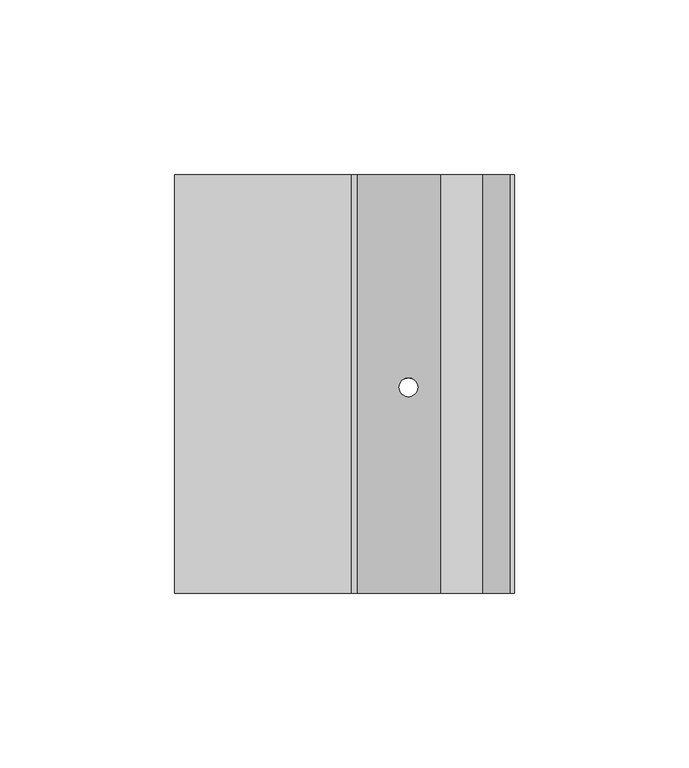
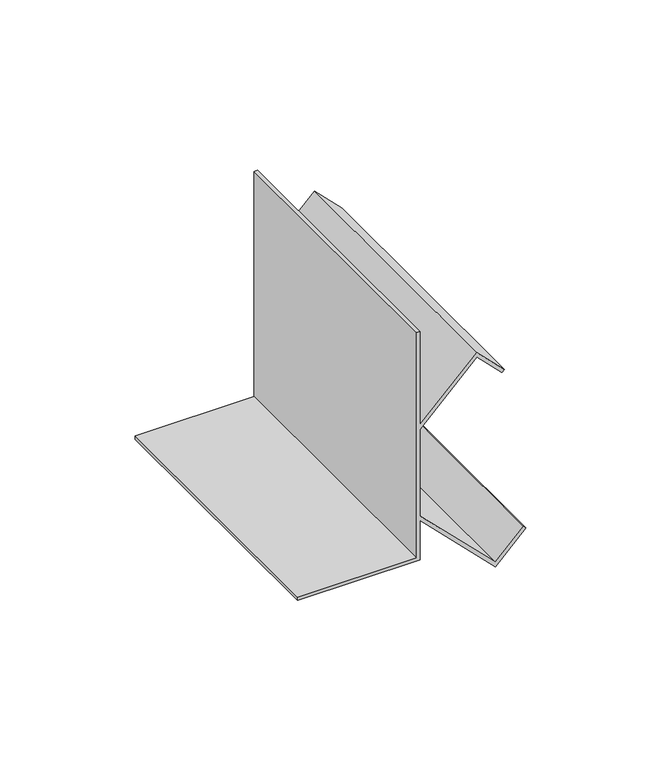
"""IFC4 building model written with IfcOpenShell, lengths in millimetres: proxy geometry, Mechanical Fittings & Accessories17 : Mechanical Fittings & Accessories."""

from ifc_helpers import new_model, si_unit, frame, origin, place, context, project, spatial, polyline, ellipse_curve, source, transform, mapped, element, save
from ifc_brep_helpers import plane_surface, revolved_surface, advanced_brep


def generic_models_0d2f1665(model_context):
    return source(origin(), model_context, "Body", "AdvancedBrep", [
        advanced_brep(
        [(-12208.7639562, 9537.4963986, 4114.8), (-12259.5639562, 9537.4963986, 4114.8), (-12259.5639562, 9537.4963986, 4113.3117188), (-12207.275675, 9537.4963986, 4113.3117188), (-12207.275675, 9537.4963986, 4131.1383509), (-12175.165914, 9537.4963986, 4099.0285899), (-12162.1869427, 9537.4963986, 4112.0075612), (-12163.2393164, 9537.4963986, 4113.059935), (-12175.165914, 9537.4963986, 4101.1333374), (-12207.275675, 9537.4963986, 4133.2430984), (-12207.275675, 9537.4963986, 4172.2761118), (-12183.103414, 9537.4963986, 4196.4483729), (-12172.3674414, 9537.4963986, 4185.7124003), (-12171.3150677, 9537.4963986, 4186.7647741), (-12183.103414, 9537.4963986, 4198.5531204), (-12207.275675, 9537.4963986, 4174.3808594), (-12207.275675, 9537.4963986, 4216.4), (-12208.7639562, 9537.4963986, 4216.4), (-12208.7639562, 9657.4645457, 4114.8), (-12208.7639562, 9657.4645457, 4216.4), (-12207.275675, 9657.4645457, 4216.4), (-12207.275675, 9657.4645457, 4174.3808594), (-12183.103414, 9657.4645457, 4198.5531204), (-12171.3150677, 9657.4645457, 4186.7647741), (-12172.3674414, 9657.4645457, 4185.7124003), (-12183.103414, 9657.4645457, 4196.4483729), (-12207.275675, 9657.4645457, 4172.2761118), (-12207.275675, 9657.4645457, 4133.2430984), (-12175.165914, 9657.4645457, 4101.1333374), (-12163.2393164, 9657.4645457, 4113.059935), (-12162.1869427, 9657.4645457, 4112.0075612), (-12175.165914, 9657.4645457, 4099.0285899), (-12207.275675, 9657.4645457, 4131.1383509), (-12207.275675, 9657.4645457, 4113.3117188), (-12259.5639562, 9657.4645457, 4113.3117188), (-12259.5639562, 9657.4645457, 4114.8), (-12195.1617646, 9596.5191481, 4119.0244406), (-12189.8223978, 9596.5191481, 4113.6850737), (-12189.8223978, 9596.5191481, 4115.7898213), (-12195.1617646, 9596.5191481, 4121.1291881), (-12195.1617646, 9596.5191481, 4184.3900222), (-12189.8223978, 9596.5191481, 4189.729389), (-12189.8223978, 9596.5191481, 4191.8341365), (-12195.1617646, 9596.5191481, 4186.4947697)],
        [
            (0, 1),
            (1, 2),
            (2, 3),
            (3, 4),
            (4, 5),
            (5, 6),
            (6, 7),
            (7, 8),
            (8, 9),
            (9, 10),
            (10, 11),
            (11, 12),
            (12, 13),
            (13, 14),
            (14, 15),
            (15, 16),
            (16, 17),
            (17, 0),
            (18, 19),
            (19, 20),
            (20, 21),
            (21, 22),
            (22, 23),
            (23, 24),
            (24, 25),
            (25, 26),
            (26, 27),
            (27, 28),
            (28, 29),
            (29, 30),
            (30, 31),
            (31, 32),
            (32, 33),
            (33, 34),
            (34, 35),
            (35, 18),
            (0, 18),
            (35, 1),
            (34, 2),
            (33, 3),
            (32, 4),
            (31, 5),
            (36, 37, ellipse_curve(frame((-12192.4920812, 9596.5191481, 4116.3547571), z_axis=(0.7071067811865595, 0.0, 0.7071067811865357), x_axis=(-0.7071067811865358, 0.0, 0.7071067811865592)), 3.7755025, 2.6696834)),
            (37, 36, ellipse_curve(frame((-12192.4920812, 9596.5191481, 4116.3547571), z_axis=(0.7071067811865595, 0.0, 0.7071067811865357), x_axis=(-0.7071067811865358, 0.0, 0.7071067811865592)), 3.7755025, 2.6696834)),
            (30, 6),
            (29, 7),
            (28, 8),
            (27, 9),
            (38, 39, ellipse_curve(frame((-12192.4920812, 9596.5191481, 4118.4595047), z_axis=(-0.7071067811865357, 0.0, -0.7071067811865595), x_axis=(-0.7071067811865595, 0.0, 0.7071067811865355)), 3.7755025, 2.6696834)),
            (39, 38, ellipse_curve(frame((-12192.4920812, 9596.5191481, 4118.4595047), z_axis=(-0.7071067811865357, 0.0, -0.7071067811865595), x_axis=(-0.7071067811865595, 0.0, 0.7071067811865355)), 3.7755025, 2.6696834)),
            (26, 10),
            (25, 11),
            (40, 41, ellipse_curve(frame((-12192.4920812, 9596.5191481, 4187.0597056), z_axis=(-0.7071067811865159, 0.0, 0.7071067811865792), x_axis=(0.7071067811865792, 0.0, 0.7071067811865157)), 3.7755025, 2.6696834)),
            (41, 40, ellipse_curve(frame((-12192.4920812, 9596.5191481, 4187.0597056), z_axis=(-0.7071067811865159, 0.0, 0.7071067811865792), x_axis=(0.7071067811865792, 0.0, 0.7071067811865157)), 3.7755025, 2.6696834)),
            (24, 12),
            (23, 13),
            (22, 14),
            (21, 15),
            (42, 43, ellipse_curve(frame((-12192.4920812, 9596.5191481, 4189.1644531), z_axis=(0.7071067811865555, 0.0, -0.7071067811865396), x_axis=(0.7071067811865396, 0.0, 0.7071067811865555)), 3.7755025, 2.6696834)),
            (43, 42, ellipse_curve(frame((-12192.4920812, 9596.5191481, 4189.1644531), z_axis=(0.7071067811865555, 0.0, -0.7071067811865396), x_axis=(0.7071067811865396, 0.0, 0.7071067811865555)), 3.7755025, 2.6696834)),
            (20, 16),
            (19, 17),
            (36, 39),
            (38, 37),
            (40, 43),
            (42, 41),
        ],
        [
            plane_surface(frame((-12259.5639562, 9537.4963986, 4114.8), z_axis=(0.0, -1.0, 0.0), x_axis=(-1.0, 0.0, 0.0))),
            plane_surface(frame((-12259.5639562, 9657.4645457, 4114.8), z_axis=(0.0, 1.0, 0.0), x_axis=(1.0, 0.0, 0.0))),
            plane_surface(frame((-12208.7639562, 9537.4963986, 4114.8), z_axis=(0.0, 0.0, 1.0), x_axis=(0.0, 1.0, 0.0))),
            plane_surface(frame((-12259.5639562, 9537.4963986, 4114.8), z_axis=(-1.0, 0.0, 0.0), x_axis=(0.0, 1.0, 0.0))),
            plane_surface(frame((-12259.5639562, 9537.4963986, 4113.3117188), z_axis=(0.0, 0.0, -1.0), x_axis=(0.0, 1.0, 0.0))),
            plane_surface(frame((-12207.275675, 9537.4963986, 4113.3117188), z_axis=(1.0, 0.0, 0.0), x_axis=(0.0, 1.0, 0.0))),
            plane_surface(frame((-12207.275675, 9537.4963986, 4131.1383509), z_axis=(-0.7071067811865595, 0.0, -0.7071067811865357), x_axis=(0.0, 1.0, 0.0))),
            plane_surface(frame((-12175.165914, 9537.4963986, 4099.0285899), z_axis=(0.7071067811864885, 0.0, -0.7071067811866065), x_axis=(0.0, 1.0, 0.0))),
            plane_surface(frame((-12162.1869427, 9537.4963986, 4112.0075612), z_axis=(0.7071067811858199, 0.0, 0.7071067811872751), x_axis=(0.0, 1.0, 0.0))),
            plane_surface(frame((-12163.2393164, 9537.4963986, 4113.059935), z_axis=(-0.7071067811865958, 0.0, 0.7071067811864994), x_axis=(0.0, 1.0, 0.0))),
            plane_surface(frame((-12175.165914, 9537.4963986, 4101.1333374), z_axis=(0.7071067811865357, 0.0, 0.7071067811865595), x_axis=(0.0, 1.0, 0.0))),
            plane_surface(frame((-12207.275675, 9537.4963986, 4133.2430984), z_axis=(1.0, 0.0, 0.0), x_axis=(0.0, 1.0, 0.0))),
            plane_surface(frame((-12207.275675, 9537.4963986, 4172.2761118), z_axis=(0.7071067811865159, 0.0, -0.7071067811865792), x_axis=(0.0, 1.0, 0.0))),
            plane_surface(frame((-12183.103414, 9537.4963986, 4196.4483729), z_axis=(-0.7071067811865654, 0.0, -0.7071067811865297), x_axis=(0.0, 1.0, 0.0))),
            plane_surface(frame((-12172.3674414, 9537.4963986, 4185.7124003), z_axis=(0.7071067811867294, 0.0, -0.7071067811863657), x_axis=(0.0, 1.0, 0.0))),
            plane_surface(frame((-12171.3150677, 9537.4963986, 4186.7647741), z_axis=(0.707106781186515, 0.0, 0.70710678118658), x_axis=(0.0, 1.0, 0.0))),
            plane_surface(frame((-12183.103414, 9537.4963986, 4198.5531204), z_axis=(-0.7071067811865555, 0.0, 0.7071067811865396), x_axis=(0.0, 1.0, 0.0))),
            plane_surface(frame((-12207.275675, 9537.4963986, 4174.3808594), z_axis=(1.0, 0.0, 0.0), x_axis=(0.0, 1.0, 0.0))),
            plane_surface(frame((-12207.275675, 9537.4963986, 4216.4), z_axis=(0.0, 0.0, 1.0), x_axis=(0.0, 1.0, 0.0))),
            plane_surface(frame((-12208.7639562, 9537.4963986, 4216.4), z_axis=(-1.0, 0.0, 0.0), x_axis=(0.0, 1.0, 0.0))),
            revolved_surface(polyline([(-12189.8223978, 9596.5191481, 4121.129188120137), (-12189.8223978, 9596.5191481, 4113.685073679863)]), (-12192.4920812, 9596.5191481, 4097.2034211), (0.0, 0.0, 1.0)),
            revolved_surface(polyline([(-12189.8223978, 9596.5191481, 4191.834136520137), (-12189.8223978, 9596.5191481, 4184.390022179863)]), (-12192.4920812, 9596.5191481, 4097.2034211), (0.0, 0.0, 1.0)),
        ],
        [
            (0, [[1, 2, 3, 4, 5, 6, 7, 8, 9, 10, 11, 12, 13, 14, 15, 16, 17, 18]]),
            (1, [[19, 20, 21, 22, 23, 24, 25, 26, 27, 28, 29, 30, 31, 32, 33, 34, 35, 36]]),
            (2, [[-1, 37, -36, 38]]),
            (3, [[-2, -38, -35, 39]]),
            (4, [[-3, -39, -34, 40]]),
            (5, [[-4, -40, -33, 41]]),
            (6, [[-5, -41, -32, 42], [43, 44]]),
            (7, [[-6, -42, -31, 45]]),
            (8, [[-7, -45, -30, 46]]),
            (9, [[-8, -46, -29, 47]]),
            (10, [[-9, -47, -28, 48], [49, 50]]),
            (11, [[-10, -48, -27, 51]]),
            (12, [[-11, -51, -26, 52], [53, 54]]),
            (13, [[-12, -52, -25, 55]]),
            (14, [[-13, -55, -24, 56]]),
            (15, [[-14, -56, -23, 57]]),
            (16, [[-15, -57, -22, 58], [59, 60]]),
            (17, [[-16, -58, -21, 61]]),
            (18, [[-17, -61, -20, 62]]),
            (19, [[-18, -62, -19, -37]]),
            (20, [[63, -49, 64, -43]]),
            (21, [[65, -59, 66, -53]]),
            (20, [[-63, -44, -64, -50]]),
            (21, [[-65, -54, -66, -60]]),
        ],
    ),
    ])


if __name__ == "__main__":
    model = new_model("IFC4")
    model_context = context("Model", 3, world=origin())
    ifc_project = project(units=[si_unit("LENGTHUNIT", "METRE", prefix="MILLI")], contexts=[model_context])
    site = spatial("IfcSite", under=ifc_project)
    building = spatial("IfcBuilding", under=site)
    placement = place(None, origin())
    generic_models_shape = generic_models_0d2f1665(model_context)
    element("IfcBuildingElementProxy", 1, Name="Mechanical Fittings & Accessories17 : Mechanical Fittings & Accessories", ObjectType="Mechanical Fittings & Accessories17 : Mechanical Fittings & Accessories", at=placement, inside=building, context=model_context, shape_type="MappedRepresentation", body=[
        mapped(generic_models_shape, transform((0.0, 0.0, 0.0), x_axis=(1.0, 0.0, 0.0), y_axis=(0.0, 1.0, 0.0), z_axis=(0.0, 0.0, 1.0))),
    ])
    save(model, "model.ifc")
